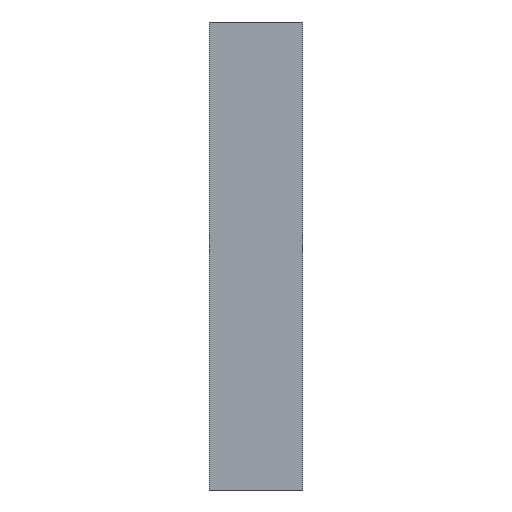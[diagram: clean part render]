
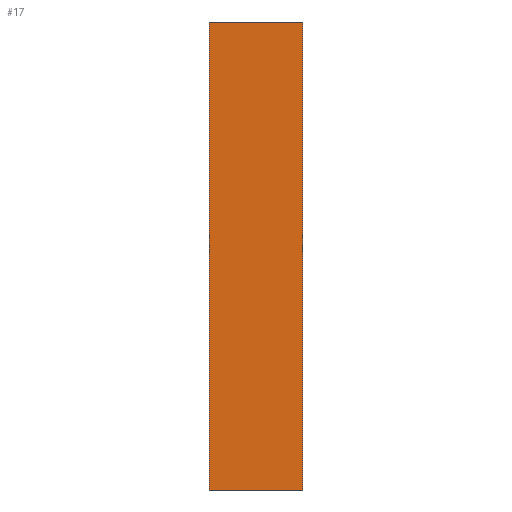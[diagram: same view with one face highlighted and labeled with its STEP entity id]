
A CAD part, left-side view. The second image highlights one B-rep face of the part: STEP entity #17.
In plain terms, the highlighted planar face has unit normal (-1, 0, 0).
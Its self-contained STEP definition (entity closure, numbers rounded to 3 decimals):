
#17 = ADVANCED_FACE('',(#18),#32,.F.);
#18 = FACE_BOUND('',#19,.F.);
#19 = EDGE_LOOP('',(#20,#55,#83,#111));
#20 = ORIENTED_EDGE('',*,*,#21,.F.);
#21 = EDGE_CURVE('',#22,#24,#26,.T.);
#22 = VERTEX_POINT('',#23);
#23 = CARTESIAN_POINT('',(-250.,65.,95.));
#24 = VERTEX_POINT('',#25);
#25 = CARTESIAN_POINT('',(-250.,65.,125.));
#26 = SURFACE_CURVE('',#27,(#31,#43),.PCURVE_S1.);
#27 = LINE('',#28,#29);
#28 = CARTESIAN_POINT('',(-250.,65.,95.));
#29 = VECTOR('',#30,1.);
#30 = DIRECTION('',(0.,0.,1.));
#31 = PCURVE('',#32,#37);
#32 = PLANE('',#33);
#33 = AXIS2_PLACEMENT_3D('',#34,#35,#36);
#34 = CARTESIAN_POINT('',(-250.,65.,95.));
#35 = DIRECTION('',(1.,0.,0.));
#36 = DIRECTION('',(0.,0.,1.));
#37 = DEFINITIONAL_REPRESENTATION('',(#38),#42);
#38 = LINE('',#39,#40);
#39 = CARTESIAN_POINT('',(0.,0.));
#40 = VECTOR('',#41,1.);
#41 = DIRECTION('',(1.,0.));
#42 = ( GEOMETRIC_REPRESENTATION_CONTEXT(2) 
PARAMETRIC_REPRESENTATION_CONTEXT() REPRESENTATION_CONTEXT('2D SPACE',''
  ) );
#43 = PCURVE('',#44,#49);
#44 = PLANE('',#45);
#45 = AXIS2_PLACEMENT_3D('',#46,#47,#48);
#46 = CARTESIAN_POINT('',(-250.,65.,95.));
#47 = DIRECTION('',(0.,1.,0.));
#48 = DIRECTION('',(0.,0.,1.));
#49 = DEFINITIONAL_REPRESENTATION('',(#50),#54);
#50 = LINE('',#51,#52);
#51 = CARTESIAN_POINT('',(0.,0.));
#52 = VECTOR('',#53,1.);
#53 = DIRECTION('',(1.,0.));
#54 = ( GEOMETRIC_REPRESENTATION_CONTEXT(2) 
PARAMETRIC_REPRESENTATION_CONTEXT() REPRESENTATION_CONTEXT('2D SPACE',''
  ) );
#55 = ORIENTED_EDGE('',*,*,#56,.T.);
#56 = EDGE_CURVE('',#22,#57,#59,.T.);
#57 = VERTEX_POINT('',#58);
#58 = CARTESIAN_POINT('',(-250.,71.,95.));
#59 = SURFACE_CURVE('',#60,(#64,#71),.PCURVE_S1.);
#60 = LINE('',#61,#62);
#61 = CARTESIAN_POINT('',(-250.,65.,95.));
#62 = VECTOR('',#63,1.);
#63 = DIRECTION('',(0.,1.,0.));
#64 = PCURVE('',#32,#65);
#65 = DEFINITIONAL_REPRESENTATION('',(#66),#70);
#66 = LINE('',#67,#68);
#67 = CARTESIAN_POINT('',(0.,0.));
#68 = VECTOR('',#69,1.);
#69 = DIRECTION('',(0.,-1.));
#70 = ( GEOMETRIC_REPRESENTATION_CONTEXT(2) 
PARAMETRIC_REPRESENTATION_CONTEXT() REPRESENTATION_CONTEXT('2D SPACE',''
  ) );
#71 = PCURVE('',#72,#77);
#72 = PLANE('',#73);
#73 = AXIS2_PLACEMENT_3D('',#74,#75,#76);
#74 = CARTESIAN_POINT('',(-250.,65.,95.));
#75 = DIRECTION('',(0.,0.,1.));
#76 = DIRECTION('',(1.,0.,0.));
#77 = DEFINITIONAL_REPRESENTATION('',(#78),#82);
#78 = LINE('',#79,#80);
#79 = CARTESIAN_POINT('',(0.,0.));
#80 = VECTOR('',#81,1.);
#81 = DIRECTION('',(0.,1.));
#82 = ( GEOMETRIC_REPRESENTATION_CONTEXT(2) 
PARAMETRIC_REPRESENTATION_CONTEXT() REPRESENTATION_CONTEXT('2D SPACE',''
  ) );
#83 = ORIENTED_EDGE('',*,*,#84,.T.);
#84 = EDGE_CURVE('',#57,#85,#87,.T.);
#85 = VERTEX_POINT('',#86);
#86 = CARTESIAN_POINT('',(-250.,71.,125.));
#87 = SURFACE_CURVE('',#88,(#92,#99),.PCURVE_S1.);
#88 = LINE('',#89,#90);
#89 = CARTESIAN_POINT('',(-250.,71.,95.));
#90 = VECTOR('',#91,1.);
#91 = DIRECTION('',(0.,0.,1.));
#92 = PCURVE('',#32,#93);
#93 = DEFINITIONAL_REPRESENTATION('',(#94),#98);
#94 = LINE('',#95,#96);
#95 = CARTESIAN_POINT('',(0.,-6.));
#96 = VECTOR('',#97,1.);
#97 = DIRECTION('',(1.,0.));
#98 = ( GEOMETRIC_REPRESENTATION_CONTEXT(2) 
PARAMETRIC_REPRESENTATION_CONTEXT() REPRESENTATION_CONTEXT('2D SPACE',''
  ) );
#99 = PCURVE('',#100,#105);
#100 = PLANE('',#101);
#101 = AXIS2_PLACEMENT_3D('',#102,#103,#104);
#102 = CARTESIAN_POINT('',(-250.,71.,95.));
#103 = DIRECTION('',(0.,1.,0.));
#104 = DIRECTION('',(0.,0.,1.));
#105 = DEFINITIONAL_REPRESENTATION('',(#106),#110);
#106 = LINE('',#107,#108);
#107 = CARTESIAN_POINT('',(0.,0.));
#108 = VECTOR('',#109,1.);
#109 = DIRECTION('',(1.,0.));
#110 = ( GEOMETRIC_REPRESENTATION_CONTEXT(2) 
PARAMETRIC_REPRESENTATION_CONTEXT() REPRESENTATION_CONTEXT('2D SPACE',''
  ) );
#111 = ORIENTED_EDGE('',*,*,#112,.F.);
#112 = EDGE_CURVE('',#24,#85,#113,.T.);
#113 = SURFACE_CURVE('',#114,(#118,#125),.PCURVE_S1.);
#114 = LINE('',#115,#116);
#115 = CARTESIAN_POINT('',(-250.,65.,125.));
#116 = VECTOR('',#117,1.);
#117 = DIRECTION('',(0.,1.,0.));
#118 = PCURVE('',#32,#119);
#119 = DEFINITIONAL_REPRESENTATION('',(#120),#124);
#120 = LINE('',#121,#122);
#121 = CARTESIAN_POINT('',(30.,0.));
#122 = VECTOR('',#123,1.);
#123 = DIRECTION('',(0.,-1.));
#124 = ( GEOMETRIC_REPRESENTATION_CONTEXT(2) 
PARAMETRIC_REPRESENTATION_CONTEXT() REPRESENTATION_CONTEXT('2D SPACE',''
  ) );
#125 = PCURVE('',#126,#131);
#126 = PLANE('',#127);
#127 = AXIS2_PLACEMENT_3D('',#128,#129,#130);
#128 = CARTESIAN_POINT('',(-250.,65.,125.));
#129 = DIRECTION('',(0.,0.,1.));
#130 = DIRECTION('',(1.,0.,0.));
#131 = DEFINITIONAL_REPRESENTATION('',(#132),#136);
#132 = LINE('',#133,#134);
#133 = CARTESIAN_POINT('',(0.,0.));
#134 = VECTOR('',#135,1.);
#135 = DIRECTION('',(0.,1.));
#136 = ( GEOMETRIC_REPRESENTATION_CONTEXT(2) 
PARAMETRIC_REPRESENTATION_CONTEXT() REPRESENTATION_CONTEXT('2D SPACE',''
  ) );
